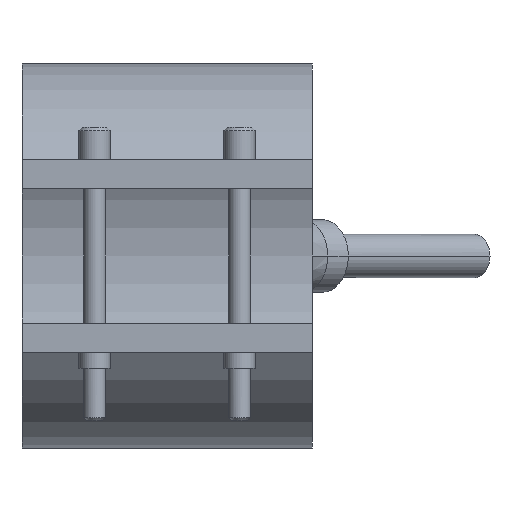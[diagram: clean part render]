
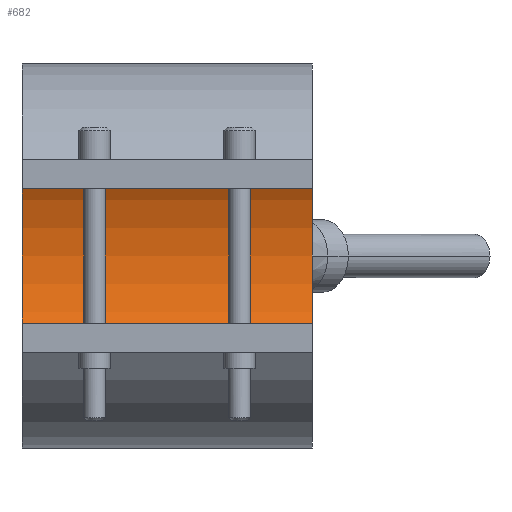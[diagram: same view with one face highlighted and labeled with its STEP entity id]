
A CAD part, front view. The second image highlights one B-rep face of the part: STEP entity #682.
In plain terms, the highlighted cylindrical face has radius 22.5 mm (diameter 45 mm), a partial arc.
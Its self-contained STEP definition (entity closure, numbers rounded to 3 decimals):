
#352=CARTESIAN_POINT('Vertex',(20.,0.,22.5)) ;
#357=CARTESIAN_POINT('Axis2P3D Location',(20.,0.,0.)) ;
#361=CARTESIAN_POINT('Vertex',(20.,0.,-22.5)) ;
#468=CARTESIAN_POINT('Vertex',(-20.,0.,-22.5)) ;
#471=CARTESIAN_POINT('Axis2P3D Location',(-20.,0.,0.)) ;
#475=CARTESIAN_POINT('Vertex',(-20.,0.,22.5)) ;
#654=CARTESIAN_POINT('Line Origine',(20.,0.,22.5)) ;
#666=CARTESIAN_POINT('Axis2P3D Location',(20.,0.,0.)) ;
#671=CARTESIAN_POINT('Line Origine',(20.,0.,-22.5)) ;
#358=DIRECTION('Axis2P3D Direction',(1.,0.,0.)) ;
#472=DIRECTION('Axis2P3D Direction',(1.,0.,0.)) ;
#655=DIRECTION('Vector Direction',(1.,0.,0.)) ;
#667=DIRECTION('Axis2P3D Direction',(1.,0.,-0.)) ;
#668=DIRECTION('Axis2P3D XDirection',(0.,0.,-1.)) ;
#672=DIRECTION('Vector Direction',(1.,0.,0.)) ;
#359=AXIS2_PLACEMENT_3D('Circle Axis2P3D',#357,#358,$) ;
#473=AXIS2_PLACEMENT_3D('Circle Axis2P3D',#471,#472,$) ;
#669=AXIS2_PLACEMENT_3D('Cylinder Axis2P3D',#666,#667,#668) ;
#677=ORIENTED_EDGE('',*,*,#363,.T.) ;
#678=ORIENTED_EDGE('',*,*,#658,.T.) ;
#679=ORIENTED_EDGE('',*,*,#477,.F.) ;
#680=ORIENTED_EDGE('',*,*,#675,.T.) ;
#656=VECTOR('Line Direction',#655,1.) ;
#673=VECTOR('Line Direction',#672,1.) ;
#682=ADVANCED_FACE('29045040',(#681),#670,.F.) ;
#360=CIRCLE('generated circle',#359,22.5) ;
#474=CIRCLE('generated circle',#473,22.5) ;
#670=CYLINDRICAL_SURFACE('generated cylinder',#669,22.5) ;
#363=EDGE_CURVE('',#362,#353,#360,.T.) ;
#477=EDGE_CURVE('',#469,#476,#474,.T.) ;
#658=EDGE_CURVE('',#353,#476,#657,.F.) ;
#675=EDGE_CURVE('',#469,#362,#674,.T.) ;
#676=EDGE_LOOP('',(#677,#678,#679,#680)) ;
#681=FACE_OUTER_BOUND('',#676,.T.) ;
#657=LINE('Line',#654,#656) ;
#674=LINE('Line',#671,#673) ;
#353=VERTEX_POINT('',#352) ;
#362=VERTEX_POINT('',#361) ;
#469=VERTEX_POINT('',#468) ;
#476=VERTEX_POINT('',#475) ;
